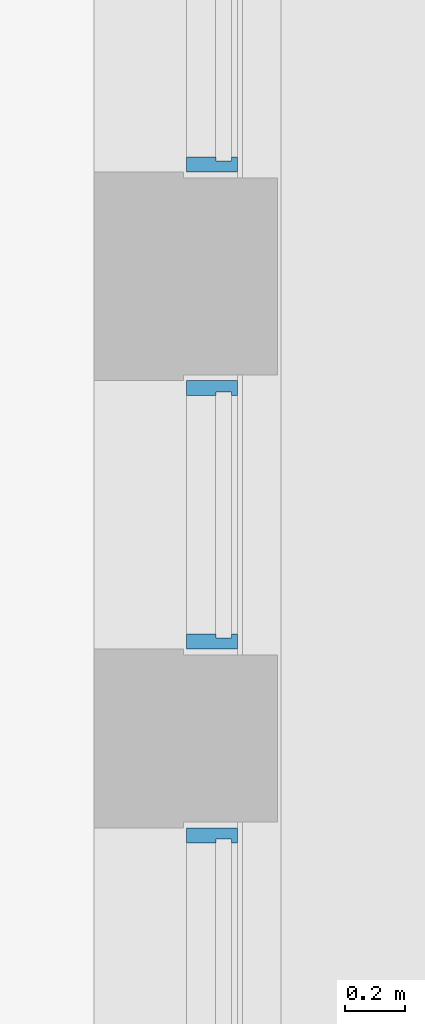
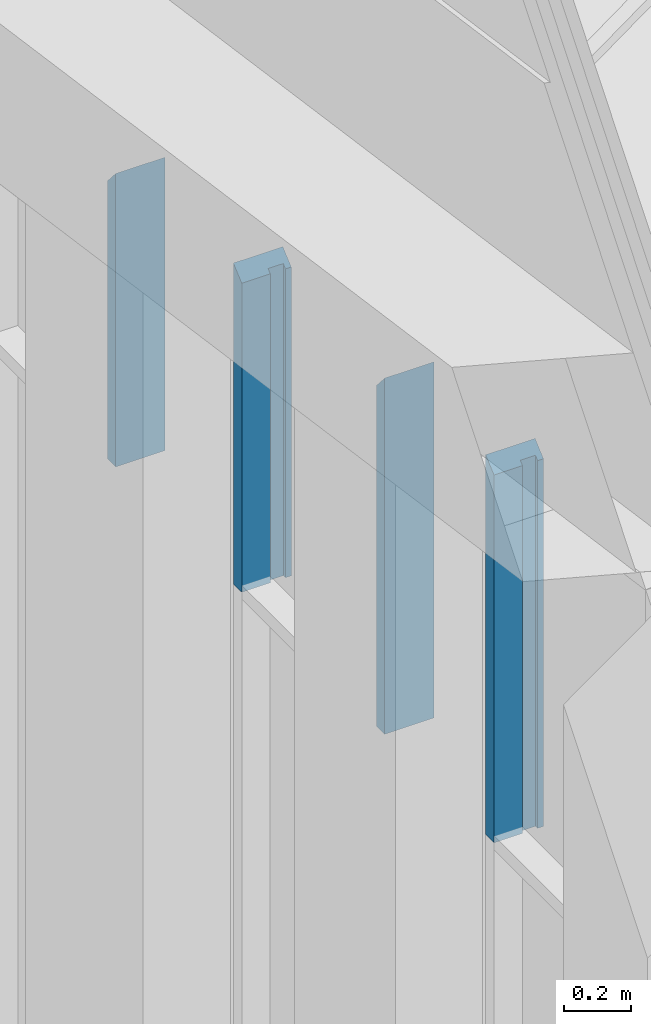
# One storey, part 73 of 246: 4 members, 3 elements without a shape of their own.
"""IFC2X3 building model written with IfcOpenShell, lengths in millimetres."""

from ifc_helpers import new_model, entity, si_unit, converted_unit, derived_unit, money_unit, direction, frame, origin_with_axes, place, context, subcontext, project, spatial, faceted_brep, material, type_object, element, aggregate, save


model = new_model("IFC2X3")

# Units and contexts
model_context = context("Model", 3, precision=0.01, world=origin_with_axes(), true_north=direction((0.0, 1.0)))
body_context = subcontext(model_context, "Body", "Model", "MODEL_VIEW")
ifc_project = project(units=[si_unit("LENGTHUNIT", "METRE", prefix="MILLI"), si_unit("AREAUNIT", "SQUARE_METRE"), si_unit("VOLUMEUNIT", "CUBIC_METRE"), converted_unit("PLANEANGLEUNIT", "DEGREE", entity("IfcPlaneAngleMeasure", 0.0174532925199), si_unit("PLANEANGLEUNIT", "RADIAN"), dimensions=[0, 0, 0, 0, 0, 0, 0]), si_unit("SOLIDANGLEUNIT", "STERADIAN"), money_unit("EUR"), converted_unit("TIMEUNIT", "Year", entity("IfcTimeMeasure", 31556926.0), si_unit("TIMEUNIT", "SECOND"), dimensions=[0, 0, 1, 0, 0, 0, 0]), si_unit("MASSUNIT", "GRAM", prefix="KILO"), si_unit("THERMODYNAMICTEMPERATUREUNIT", "DEGREE_CELSIUS"), si_unit("LUMINOUSINTENSITYUNIT", "LUMEN"), si_unit("ENERGYUNIT", "JOULE", prefix="MEGA"), derived_unit("THERMALCONDUCTANCEUNIT", [(si_unit("POWERUNIT", "WATT"), 1), (si_unit("LENGTHUNIT", "METRE"), -1), (si_unit("THERMODYNAMICTEMPERATUREUNIT", "KELVIN"), -1)]), derived_unit("SPECIFICHEATCAPACITYUNIT", [(si_unit("ENERGYUNIT", "JOULE"), 1), (si_unit("MASSUNIT", "GRAM", prefix="KILO"), -1), (si_unit("THERMODYNAMICTEMPERATUREUNIT", "KELVIN"), -1)]), derived_unit("MASSDENSITYUNIT", [(si_unit("MASSUNIT", "GRAM", prefix="KILO"), 1), (si_unit("VOLUMEUNIT", "CUBIC_METRE"), -1)])], contexts=[model_context])

# Site, building, storey
site_placement = place(None, origin_with_axes())
site = spatial("IfcSite", under=ifc_project, at=site_placement, Name="L.Koidula tn 11b", CompositionType="ELEMENT")
building_placement = place(site_placement, origin_with_axes())
building = spatial("IfcBuilding", under=site, at=building_placement, Name="Rakvere Riigigümnaasium", CompositionType="ELEMENT")
storey_placement = place(building_placement, origin_with_axes())
storey = spatial("IfcBuildingStorey", under=building, at=storey_placement, Name="1.korrus 0,00", CompositionType="ELEMENT", Elevation=0.0)

# Curtain wall, member
curtain_wall_type = type_object("IfcCurtainWallType", Name="Curtain Wall Type", PredefinedType="NOTDEFINED")
curtain_wall_1_placement = place(storey_placement, frame((47434.0004775, 50700.4459651, -5.70142248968e-05), z_axis=(0.0, 0.0, 1.0), x_axis=(1.0, 0.0, 0.0)))
curtain_wall_1 = element("IfcCurtainWall", 1, at=curtain_wall_1_placement, inside=storey, type_object=curtain_wall_type, Name="KLF-07-04")
ifc_material = material(Name="Alumiiniumprofiil (RAL 7021)")
member_type = type_object("IfcMemberType", Name="Boundary Frame 50 x 170", PredefinedType="MULLION")
member_1_placement = place(curtain_wall_1_placement, frame((0.0, 499.999990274, 5100.00005701), z_axis=(0.0, 0.0, 1.0), x_axis=(0.0, 1.0, 0.0)))
member_1 = element("IfcMember", 2, at=member_1_placement, type_object=member_type, material=ifc_material, Name="KLF-07-91-Profiilid", ObjectType="MULLION", context=body_context, shape_type="Brep", body=[
    faceted_brep([(-37.0, 26.0, 1346.28923019), (-37.0, -26.0, 1346.28923019), (-50.0, -26.0, 1335.0089905), (-50.0, -46.0, 1335.0089905), (0.0, -46.0, 1378.39452775), (0.0, 124.0, 1378.39452775), (-50.0, 124.0, 1335.0089905), (-50.0, 26.0, 1335.0089905), (-37.0, 26.0, 0.0), (-37.0, -26.0, 0.0), (-50.0, -26.0, 0.0), (-50.0, -46.0, 0.0), (0.0, -46.0, 0.0), (0.0, 124.0, 0.0), (-50.0, 124.0, 0.0), (-50.0, 26.0, 0.0)], [[[0, 1, 2, 3, 4, 5, 6, 7]], [[1, 0, 8, 9]], [[10, 2, 1, 9]], [[2, 10, 11, 3]], [[12, 4, 3, 11]], [[13, 5, 4, 12]], [[14, 6, 5, 13]], [[15, 7, 6, 14]], [[0, 7, 15, 8]], [[8, 15, 14, 13, 12, 11, 10, 9]]]),
])
aggregate(curtain_wall_1, [member_1])

# Curtain wall, members
curtain_wall_2_placement = place(storey_placement, frame((47433.9999935, 52250.4459079, -7.88318499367e-05), z_axis=(0.0, 0.0, 1.0), x_axis=(1.0, 0.0, 0.0)))
curtain_wall_2 = element("IfcCurtainWall", 3, at=curtain_wall_2_placement, inside=storey, type_object=curtain_wall_type, Name="KLF-07-05")
member_2_placement = place(curtain_wall_2_placement, frame((0.0, -449.999944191, 5100.00007883), z_axis=(0.0, -1.66315317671e-09, 1.0), x_axis=(0.0, 1.0, 1.66315317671e-09)))
member_2 = element("IfcMember", 4, at=member_2_placement, type_object=member_type, material=ifc_material, Name="KLF-07-76-Profiilid", ObjectType="MULLION", context=body_context, shape_type="Brep", body=[
    faceted_brep([(37.0000020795, 26.0, 1250.32948103), (50.0000020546, 26.0, 1235.34753154), (50.0000020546, 124.0, 1235.34753154), (2.15040785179e-06, 124.0, 1292.97041421), (2.15040785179e-06, -46.0, 1292.97041421), (50.0000020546, -46.0, 1235.34753154), (50.0000020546, -26.0, 1235.34753154), (37.0000020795, -26.0, 1250.32948103), (37.0, 26.0, -2.26966001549e-07), (50.0, 26.0, -2.48586928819e-07), (50.0, 124.0, -2.48586928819e-07), (0.0, 124.0, -1.65429447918e-07), (0.0, -46.0, -1.65429447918e-07), (50.0, -46.0, -2.48586928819e-07), (50.0, -26.0, -2.48586928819e-07), (37.0, -26.0, -2.26966001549e-07)], [[[0, 1, 2, 3, 4, 5, 6, 7]], [[0, 8, 9, 1]], [[9, 10, 2, 1]], [[10, 11, 3, 2]], [[11, 12, 4, 3]], [[12, 13, 5, 4]], [[6, 5, 13, 14]], [[14, 15, 7, 6]], [[7, 15, 8, 0]], [[8, 15, 14, 13, 12, 11, 10, 9]]]),
])
member_3_placement = place(curtain_wall_2_placement, frame((0.0, 449.999932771, 6264.83444762), z_axis=(0.0, -2.51931146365e-08, -1.0), x_axis=(0.0, -1.0, 2.51931146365e-08)))
member_3 = element("IfcMember", 5, at=member_3_placement, type_object=member_type, material=ifc_material, Name="KLF-07-78-Profiilid", ObjectType="MULLION", context=body_context, shape_type="Brep", body=[
    faceted_brep([(36.9999706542, 26.0, 1164.83437123), (49.9999706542, 26.0, 1164.83437156), (49.9999706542, 124.0, 1164.83437156), (-2.93458057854e-05, 124.0, 1164.8343703), (-2.93458057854e-05, -46.0, 1164.8343703), (49.9999706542, -46.0, 1164.83437156), (49.9999706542, -26.0, 1164.83437156), (36.9999706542, -26.0, 1164.83437123), (36.9999991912, 26.0, 32.1053029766), (49.999998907, 26.0, 43.385544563), (49.999998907, 124.0, 43.385544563), (0.0, 124.0, 0.0), (0.0, -46.0, 0.0), (49.999998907, -46.0, 43.385544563), (49.999998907, -26.0, 43.385544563), (36.9999991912, -26.0, 32.1053029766)], [[[0, 1, 2, 3, 4, 5, 6, 7]], [[0, 8, 9, 1]], [[9, 10, 2, 1]], [[2, 10, 11, 3]], [[3, 11, 12, 4]], [[4, 12, 13, 5]], [[6, 5, 13, 14]], [[14, 15, 7, 6]], [[7, 15, 8, 0]], [[8, 15, 14, 13, 12, 11, 10, 9]]]),
])
aggregate(curtain_wall_2, [member_2, member_3])

# Curtain wall, member
curtain_wall_3_placement = place(storey_placement, frame((47433.9999935, 53800.4459212, -2.62174737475e-05), z_axis=(0.0, 0.0, 1.0), x_axis=(1.0, 0.0, 0.0)))
curtain_wall_3 = element("IfcCurtainWall", 6, at=curtain_wall_3_placement, inside=storey, type_object=curtain_wall_type, Name="KLF-07-06")
member_4_placement = place(curtain_wall_3_placement, frame((0.0, -399.999898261, 5100.00002622), z_axis=(0.0, -2.71766188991e-09, 1.0), x_axis=(0.0, 1.0, 2.71766188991e-09)))
member_4 = element("IfcMember", 7, at=member_4_placement, type_object=member_type, material=ifc_material, Name="KLF-07-77-Profiilid", ObjectType="MULLION", context=body_context, shape_type="Brep", body=[
    faceted_brep([(37.0000027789, 26.0, 1022.53186785), (50.0000027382, 26.0, 1007.54991839), (50.0000027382, 124.0, 1007.54991839), (2.8947795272e-06, 124.0, 1065.17280091), (2.8947795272e-06, -46.0, 1065.17280091), (50.0000027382, -46.0, 1007.54991839), (50.0000027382, -26.0, 1007.54991839), (37.0000027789, -26.0, 1022.53186785), (37.0, 26.0, -9.8970964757e-07), (50.0, 26.0, -1.02503960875e-06), (50.0, 124.0, -1.02503960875e-06), (0.0, 124.0, -8.8915630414e-07), (0.0, -46.0, -8.8915630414e-07), (50.0, -46.0, -1.02503960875e-06), (50.0, -26.0, -1.02503960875e-06), (37.0, -26.0, -9.8970964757e-07)], [[[0, 1, 2, 3, 4, 5, 6, 7]], [[0, 8, 9, 1]], [[9, 10, 2, 1]], [[10, 11, 3, 2]], [[11, 12, 4, 3]], [[12, 13, 5, 4]], [[6, 5, 13, 14]], [[14, 15, 7, 6]], [[7, 15, 8, 0]], [[8, 15, 14, 13, 12, 11, 10, 9]]]),
])
aggregate(curtain_wall_3, [member_4])

save(model, "model.ifc")
